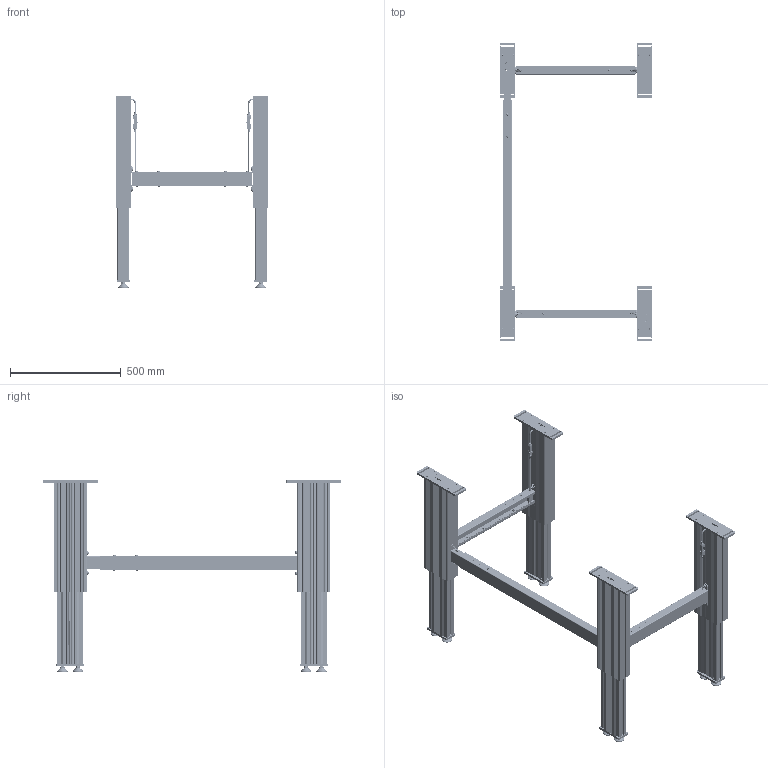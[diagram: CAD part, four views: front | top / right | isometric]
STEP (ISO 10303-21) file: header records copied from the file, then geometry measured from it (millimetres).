
FILE_DESCRIPTION(/* description */ ('Unknown'),/* implementation_level */ '2;1');
FILE_NAME(/* name */ 'Untergestell SM 4330 1050-1700 XX XX_00-Ausgefahren',/* time_stamp */ '2022-08-15T09:36:11+02:00',/* author */ ('Unknown'),/* organization */ ('Unknown'),/* preprocessor_version */ 'ST-DEVELOPER v18.102',/* originating_system */ 'Solid Edge',/* authorisation */ 'Unknown');
FILE_SCHEMA (('AUTOMOTIVE_DESIGN {1 0 10303 214 3 1 1}'));
Products named in the file (47): Untergestell SM 4330 1050-1700 XX XX; 902.01023_oa_0; 126.00138; 119.00315; 119.00314; 142.00166; 124.00201_oa_1; 142.00241; 110.00113_oa_2; 115.00200_oa_3; 124.00151; Kabel Motor Sx; 142.00343; 127.00329; 113.00006; 113.00006-ohne Mutter; Mutter M10; 902.01023_oa_4; 124.00201_oa_5; 110.00113_oa_6; 115.00200_oa_7; 902.01023_oa_8; 124.00201_oa_9; 110.00113_oa_10; 115.00200_oa_11; 902.01023_oa_12; 124.00201_oa_13; 110.00113_oa_14; 115.00200_oa_15; 127.00631; 096599~1; 096600~1; Sechskantmutter M6 DIN 934; Scheibe Ø6,4 DIN 125; Halbrundkopfschraube mit Innensechskant M8x12 ISO 7380-1; Scheibe Ø8,4 DIN 125; Nutenstein M8_montiert; Halbrundkopfschraube mit Innensechskant und Bund M6x16 ISO 7380-2; 127.00632; 096611~1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
Assembly tree (137 placements, depth 3):
  Untergestell SM 4330 1050-1700 XX XX
    902.01023_oa_0
      126.00138
      119.00315
      119.00314
      142.00166  x4
      124.00201_oa_1
      142.00241  x2
      110.00113_oa_2
      115.00200_oa_3
      124.00151
      Kabel Motor Sx
      142.00343  x2
    127.00329  x4
    113.00006  x8
      113.00006-ohne Mutter
      Mutter M10
    902.01023_oa_4
      126.00138
      119.00315
      119.00314
      142.00166  x4
      124.00201_oa_5
      142.00241  x2
      110.00113_oa_6
      115.00200_oa_7
      124.00151
      Kabel Motor Sx
      142.00343  x2
    902.01023_oa_8
      126.00138
      119.00315
      119.00314
      142.00166  x4
      124.00201_oa_9
      142.00241  x2
      110.00113_oa_10
      115.00200_oa_11
      124.00151
      Kabel Motor Sx
      142.00343  x2
    902.01023_oa_12
      126.00138
      119.00315
      119.00314
      142.00166  x4
      124.00201_oa_13
      142.00241  x2
      110.00113_oa_14
      115.00200_oa_15
      124.00151
      Kabel Motor Sx
      142.00343  x2
    127.00631  x2
      096599~1
      096600~1
      Sechskantmutter M6 DIN 934
      Scheibe Ø6,4 DIN 125
      Halbrundkopfschraube mit Innensechskant M8x12 ISO 7380-1
      Scheibe Ø8,4 DIN 125
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Bounding box: 690 x 1350 x 863 mm (x, y, z)
Volume: 10785862.2 mm3; surface area: 5679699.9 mm2
Topology: 150 solids, 150 shells, 16468 faces, 45782 edges, 30178 vertices
Faces by surface type: plane 9192, cylinder 5920, torus 636, bspline 436, cone 248, sphere 36
Full cylindrical faces by diameter (mm): 1.5 x24, 1.82 x24, 2.459 x4, 2.7 x24, 3.242 x8, 3.4 x4, 4 x16, 5 x20, 5.5 x16, 6 x36, 6.4 x12, 6.6 x16, 6.647 x12, 7 x8, 8 x20, 8.376 x20, 8.5 x64, 8.7 x16, 9.5 x8, 10 x8, 12 x12, 12.5 x16, 13.6 x12, 14 x12, 15 x8, 16.8 x12, 19 x8, 25 x8, 29 x8, 30 x8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
Entity records: 154631 total; most frequent: CARTESIAN_POINT 28807, ORIENTED_EDGE 22276, DIRECTION 21940, EDGE_CURVE 11138, VERTEX_POINT 7449, AXIS2_PLACEMENT_3D 7400, LINE 7140, VECTOR 7140
